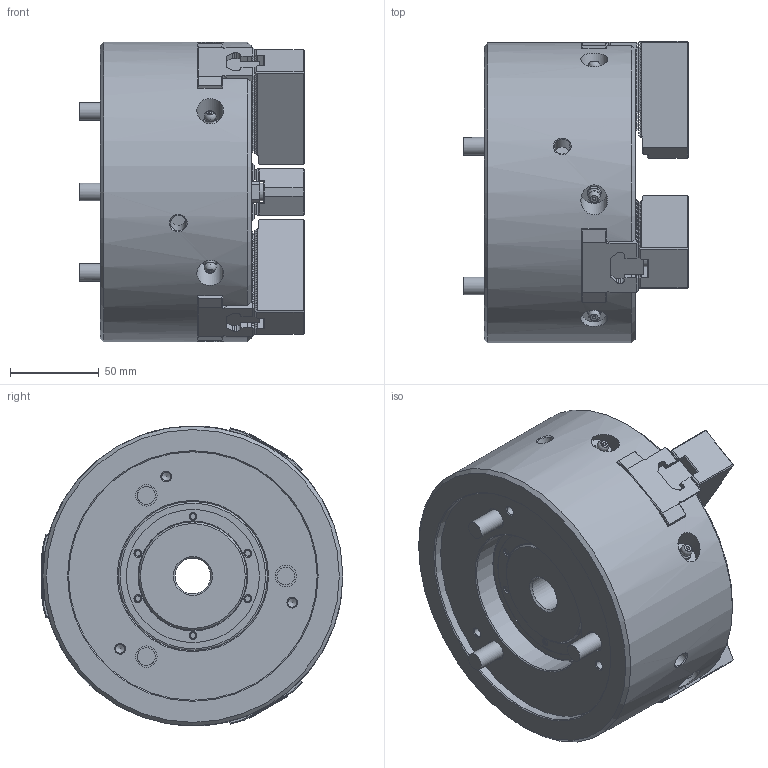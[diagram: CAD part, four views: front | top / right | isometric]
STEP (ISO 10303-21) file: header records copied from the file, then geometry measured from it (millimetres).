
FILE_DESCRIPTION (( 'STEP AP214' ), '1' );
FILE_NAME ('BS306_UC.STEP', '2019-12-20T05:29:27', ( '' ), ( '' ), 'SwSTEP 2.0', 'SolidWorks 2017', '' );
FILE_SCHEMA (( 'AUTOMOTIVE_DESIGN' ));
Length unit declared in the file: millimetre
Products named in the file (18): B傾僫僣僉 M10亊250_~25; 61P447483-2_俿僫僢僩_b_g; 61P319805-3_ソフトジョー_W_‡_[; BS306_UC; 61P447483-2_俿僫僢僩_b_g_棉太倌I佱UA; Part5^Assem1; 61P319805-3_ソフトジョー_W_‡_[_ﾃﾞﾌｫﾙﾄ_ATI≪UA; Part5^Assem1_蹬怮椔; B傾僫僣僉 M10亊250_~25_棉太倌TI佱UA
Assembly tree (13 placements, depth 2):
  B傾僫僣僉 M10亊250_~25
  B傾僫僣僉 M10亊250_~25
  61P447483-2_俿僫僢僩_b_g
  61P319805-3_ソフトジョー_W_‡_[
  B傾僫僣僉 M10亊250_~25
Bounding box: 126.5 x 169.98 x 169 mm (x, y, z)
Volume: 1761752 mm3; surface area: 182566.4 mm2
Topology: 13 solids, 25 shells, 2871 faces, 8059 edges, 5319 vertices
Faces by surface type: plane 2118, cylinder 615, cone 110, torus 16, sphere 12
Full cylindrical faces by diameter (mm): 1.5 x6, 1.9 x6, 3.2 x2, 3.3 x4, 5 x9, 6 x6, 6.8 x6, 7.35 x3, 8.5 x3, 8.8 x3, 10 x15, 11 x6, 12 x3, 15 x6, 16 x9, 17 x9, 20 x1, 45 x1, 55.5 x1, 61 x1, 61.4 x1, 75 x1, 84 x1, 140 x1, 169 x1
Entity records: 61748 total; most frequent: CARTESIAN_POINT 13470, ORIENTED_EDGE 10356, DIRECTION 9092, EDGE_CURVE 5178, VECTOR 4218, LINE 4218, VERTEX_POINT 3491, AXIS2_PLACEMENT_3D 2437
